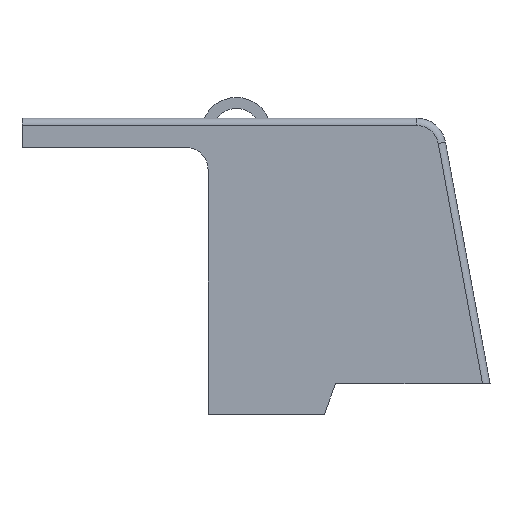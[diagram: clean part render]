
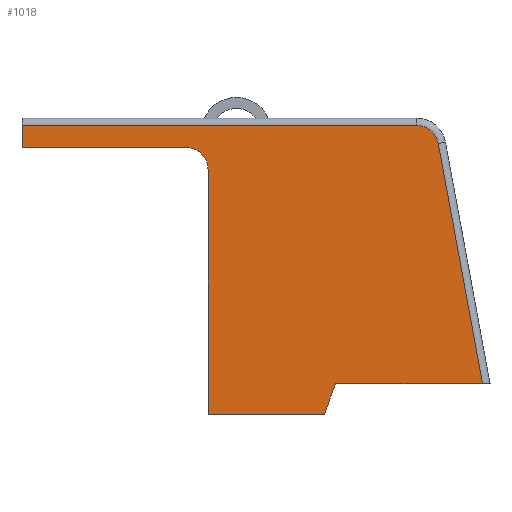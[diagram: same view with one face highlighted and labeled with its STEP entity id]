
A CAD part, front view. The second image highlights one B-rep face of the part: STEP entity #1018.
In plain terms, the highlighted planar face has unit normal (0, -1, 0).
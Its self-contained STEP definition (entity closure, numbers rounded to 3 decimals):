
#52 = CARTESIAN_POINT ( 'NONE',  ( 51.8, 184.575, 42.474 ) ) ;
#94 = EDGE_CURVE ( 'NONE', #240, #1590, #3584, .T. ) ;
#174 = CARTESIAN_POINT ( 'NONE',  ( 70.13, 184.575, 13.374 ) ) ;
#192 = VERTEX_POINT ( 'NONE', #2986 ) ;
#200 = CARTESIAN_POINT ( 'NONE',  ( 56.8, 184.575, 9.174 ) ) ;
#237 = VERTEX_POINT ( 'NONE', #1397 ) ;
#240 = VERTEX_POINT ( 'NONE', #3068 ) ;
#250 = EDGE_CURVE ( 'NONE', #3808, #1855, #2002, .T. ) ;
#279 = CARTESIAN_POINT ( 'NONE',  ( 29.5, 184.575, 48.474 ) ) ;
#372 = EDGE_CURVE ( 'NONE', #3114, #237, #3774, .T. ) ;
#412 = CARTESIAN_POINT ( 'NONE',  ( 85.83, 184.575, 47.447 ) ) ;
#426 = ORIENTED_EDGE ( 'NONE', *, *, #372, .T. ) ;
#608 = LINE ( 'NONE', #1828, #1331 ) ;
#619 = DIRECTION ( 'NONE',  ( 0., -1., 0. ) ) ;
#644 = DIRECTION ( 'NONE',  ( 0., 1., 0. ) ) ;
#655 = CARTESIAN_POINT ( 'NONE',  ( 29.5, 184.575, 45.474 ) ) ;
#735 = EDGE_CURVE ( 'NONE', #1855, #2500, #4154, .T. ) ;
#810 = DIRECTION ( 'NONE',  ( 0., -1., 0. ) ) ;
#843 = DIRECTION ( 'NONE',  ( 0., 0., -1. ) ) ;
#891 = PLANE ( 'NONE',  #1647 ) ;
#970 = CARTESIAN_POINT ( 'NONE',  ( 54.8, 184.575, 42.474 ) ) ;
#974 = DIRECTION ( 'NONE',  ( 0., 0., -1. ) ) ;
#987 = DIRECTION ( 'NONE',  ( 0., 0., -1. ) ) ;
#1018 = ADVANCED_FACE ( 'NONE', ( #1433 ), #891, .T. ) ;
#1021 = DIRECTION ( 'NONE',  ( 0.342, 0., 0.94 ) ) ;
#1032 = CARTESIAN_POINT ( 'NONE',  ( 29.5, 184.575, 45.474 ) ) ;
#1037 = DIRECTION ( 'NONE',  ( 1., 0., 0. ) ) ;
#1105 = DIRECTION ( 'NONE',  ( 1., 0., 0. ) ) ;
#1252 = ORIENTED_EDGE ( 'NONE', *, *, #2133, .T. ) ;
#1331 = VECTOR ( 'NONE', #2228, 1000. ) ;
#1397 = CARTESIAN_POINT ( 'NONE',  ( 70.601, 184.575, 9.174 ) ) ;
#1433 = FACE_OUTER_BOUND ( 'NONE', #2847, .T. ) ;
#1496 = LINE ( 'NONE', #174, #1860 ) ;
#1525 = ORIENTED_EDGE ( 'NONE', *, *, #250, .T. ) ;
#1590 = VERTEX_POINT ( 'NONE', #970 ) ;
#1595 = VERTEX_POINT ( 'NONE', #1032 ) ;
#1643 = CARTESIAN_POINT ( 'NONE',  ( 70.674, 184.575, 9.374 ) ) ;
#1647 = AXIS2_PLACEMENT_3D ( 'NONE', #2169, #810, #843 ) ;
#1678 = CARTESIAN_POINT ( 'NONE',  ( 86.094, 184.575, 46.018 ) ) ;
#1687 = DIRECTION ( 'NONE',  ( -0.181, 0., 0.983 ) ) ;
#1828 = CARTESIAN_POINT ( 'NONE',  ( 54.8, 184.575, 43.474 ) ) ;
#1855 = VERTEX_POINT ( 'NONE', #1678 ) ;
#1860 = VECTOR ( 'NONE', #1105, 1000. ) ;
#1883 = AXIS2_PLACEMENT_3D ( 'NONE', #52, #644, #3224 ) ;
#1943 = LINE ( 'NONE', #3606, #3291 ) ;
#2002 = LINE ( 'NONE', #412, #2902 ) ;
#2133 = EDGE_CURVE ( 'NONE', #2500, #3675, #4087, .T. ) ;
#2169 = CARTESIAN_POINT ( 'NONE',  ( 29.5, 184.575, 50.974 ) ) ;
#2208 = ORIENTED_EDGE ( 'NONE', *, *, #3101, .T. ) ;
#2228 = DIRECTION ( 'NONE',  ( 0., 0., -1. ) ) ;
#2452 = DIRECTION ( 'NONE',  ( 1., 0., 0. ) ) ;
#2500 = VERTEX_POINT ( 'NONE', #3437 ) ;
#2600 = VECTOR ( 'NONE', #3502, 1000. ) ;
#2676 = EDGE_CURVE ( 'NONE', #237, #192, #2982, .T. ) ;
#2749 = EDGE_CURVE ( 'NONE', #192, #3808, #1496, .T. ) ;
#2772 = VECTOR ( 'NONE', #2452, 1000. ) ;
#2847 = EDGE_LOOP ( 'NONE', ( #3108, #3791, #2974, #426, #3399, #3665, #1525, #3005, #1252, #2208 ) ) ;
#2902 = VECTOR ( 'NONE', #1687, 1000. ) ;
#2955 = LINE ( 'NONE', #655, #3992 ) ;
#2974 = ORIENTED_EDGE ( 'NONE', *, *, #3043, .T. ) ;
#2982 = LINE ( 'NONE', #1643, #4176 ) ;
#2986 = CARTESIAN_POINT ( 'NONE',  ( 72.13, 184.575, 13.374 ) ) ;
#2995 = CARTESIAN_POINT ( 'NONE',  ( 92.113, 184.575, 13.374 ) ) ;
#3005 = ORIENTED_EDGE ( 'NONE', *, *, #735, .T. ) ;
#3043 = EDGE_CURVE ( 'NONE', #1590, #3114, #608, .T. ) ;
#3068 = CARTESIAN_POINT ( 'NONE',  ( 51.8, 184.575, 45.474 ) ) ;
#3101 = EDGE_CURVE ( 'NONE', #3675, #1595, #1943, .T. ) ;
#3108 = ORIENTED_EDGE ( 'NONE', *, *, #3711, .T. ) ;
#3114 = VERTEX_POINT ( 'NONE', #3916 ) ;
#3224 = DIRECTION ( 'NONE',  ( 0., 0., -1. ) ) ;
#3291 = VECTOR ( 'NONE', #987, 1000. ) ;
#3399 = ORIENTED_EDGE ( 'NONE', *, *, #2676, .T. ) ;
#3437 = CARTESIAN_POINT ( 'NONE',  ( 83.144, 184.575, 48.474 ) ) ;
#3502 = DIRECTION ( 'NONE',  ( -1., 0., 0. ) ) ;
#3584 = CIRCLE ( 'NONE', #1883, 3. ) ;
#3606 = CARTESIAN_POINT ( 'NONE',  ( 29.5, 184.575, 49.474 ) ) ;
#3665 = ORIENTED_EDGE ( 'NONE', *, *, #2749, .T. ) ;
#3671 = AXIS2_PLACEMENT_3D ( 'NONE', #3903, #619, #974 ) ;
#3675 = VERTEX_POINT ( 'NONE', #279 ) ;
#3711 = EDGE_CURVE ( 'NONE', #1595, #240, #2955, .T. ) ;
#3774 = LINE ( 'NONE', #200, #2772 ) ;
#3791 = ORIENTED_EDGE ( 'NONE', *, *, #94, .T. ) ;
#3808 = VERTEX_POINT ( 'NONE', #2995 ) ;
#3903 = CARTESIAN_POINT ( 'NONE',  ( 83.144, 184.575, 45.474 ) ) ;
#3916 = CARTESIAN_POINT ( 'NONE',  ( 54.8, 184.575, 9.174 ) ) ;
#3992 = VECTOR ( 'NONE', #1037, 1000. ) ;
#4087 = LINE ( 'NONE', #4132, #2600 ) ;
#4132 = CARTESIAN_POINT ( 'NONE',  ( 29.5, 184.575, 48.474 ) ) ;
#4154 = CIRCLE ( 'NONE', #3671, 3. ) ;
#4176 = VECTOR ( 'NONE', #1021, 1000. ) ;
